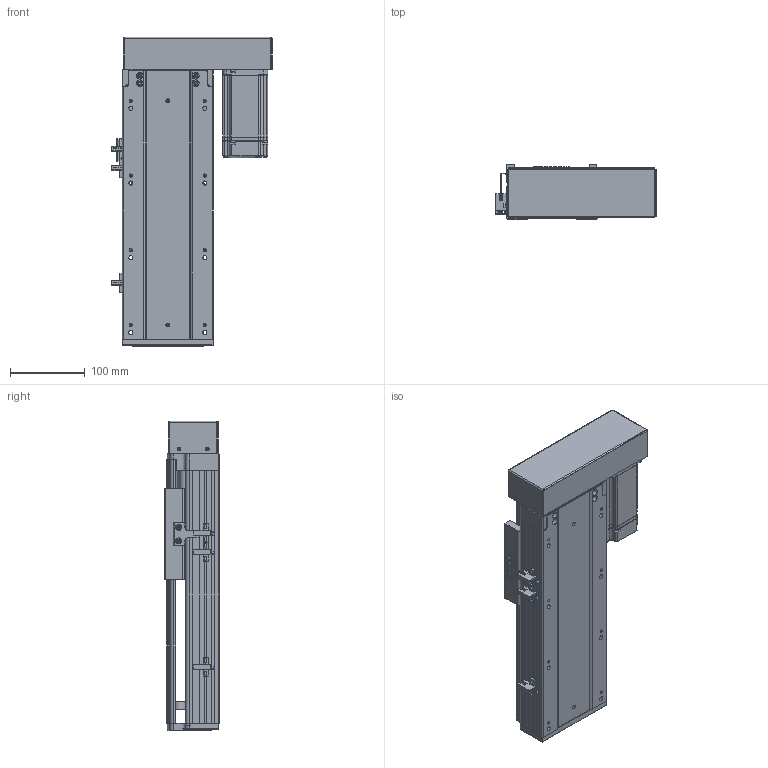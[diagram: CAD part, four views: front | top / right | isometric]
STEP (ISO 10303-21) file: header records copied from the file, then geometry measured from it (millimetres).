
FILE_DESCRIPTION (( 'STEP AP203' ), '1' );
FILE_NAME ('RY120-L2020-300-RK.SLDASM_150.step', '2021-03-12T07:13:47', ( '盈信电脑' ), ( '东莞市道滘镇水果街19号' ), 'SwSTEP 2.0', 'SolidWorks 2012', '' );
FILE_SCHEMA (( 'CONFIG_CONTROL_DESIGN' ));
Products named in the file (15): RY120-L2020-300-RK.SLDASM_150; RY120蛌殏萇儂欶; RY120-400W萇儂傷-酘衵殏_450; 侂狟400W侜督萇儂; RY120转拆电端丝杆支撑座(20丝杆，7002轴承); RY120酘殏萇儂假蚾啣; RY120外置感应片(140共用）; 15; 滅袉蝶18-10; 滅袉蝶18-24; 覜茼ん672; RY120綴裔啣; RY120臏賑輸(20蹟譫); RY120-300-RK蛌殏倰第奻裔啣_150; RY120-300-RK蛌殏倰第菁釱_150
Assembly tree (17 placements, depth 4):
  RY120-L2020-300-RK.SLDASM_150
    RY120-300-RK蛌殏倰第菁釱_150
    RY120-300-RK蛌殏倰第奻裔啣_150
    RY120臏賑輸(20蹟譫)
    RY120綴裔啣
    覜茼ん672  x3
    滅袉蝶18-10
    滅袉蝶18-24  x2
    RY120外置感应片(140共用）
    RY120转拆电端丝杆支撑座(20丝杆，7002轴承)
    RY120-400W萇儂傷-酘衵殏_450
      RY120酘殏萇儂假蚾啣
      侂狟400W侜督萇儂
        15
      RY120蛌殏萇儂欶
Bounding box: 214.2 x 73 x 414 mm (x, y, z)
Volume: 1686690.9 mm3; surface area: 578949.5 mm2
Topology: 16 solids, 16 shells, 2230 faces, 6087 edges, 3908 vertices
Faces by surface type: plane 1186, cylinder 766, cone 173, bspline 105
Entity records: 72657 total; most frequent: CARTESIAN_POINT 19787, ORIENTED_EDGE 10942, DIRECTION 10195, EDGE_CURVE 5471, VERTEX_POINT 3576, VECTOR 3529, LINE 3529, AXIS2_PLACEMENT_3D 3333
